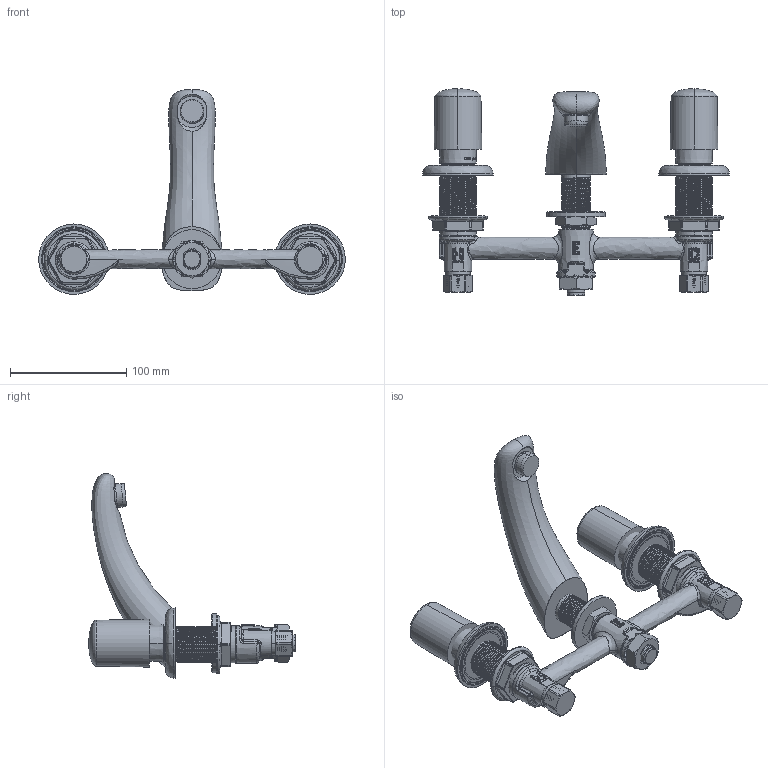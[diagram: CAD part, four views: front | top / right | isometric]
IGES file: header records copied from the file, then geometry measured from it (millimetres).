
Start section:  PTC IGES file: 404-765abcp_REV061324.igs
Global section: file name: 404-765abcp_REV061324.igs; native system: Creo Parametric by PTC Inc.; preprocessor: 2021184; author: rodjo; organization: Unknown; date: 20240613.122322; units: inch
Bounding box: 263.81 x 177.95 x 176.28 mm (x, y, z)
Surface area: 136004.4 mm2 (no closed solid volume)
Topology: 0 solids, 0 shells, 1076 faces, 9346 edges, 12808 vertices
Faces by surface type: revolution 660, bspline 416
